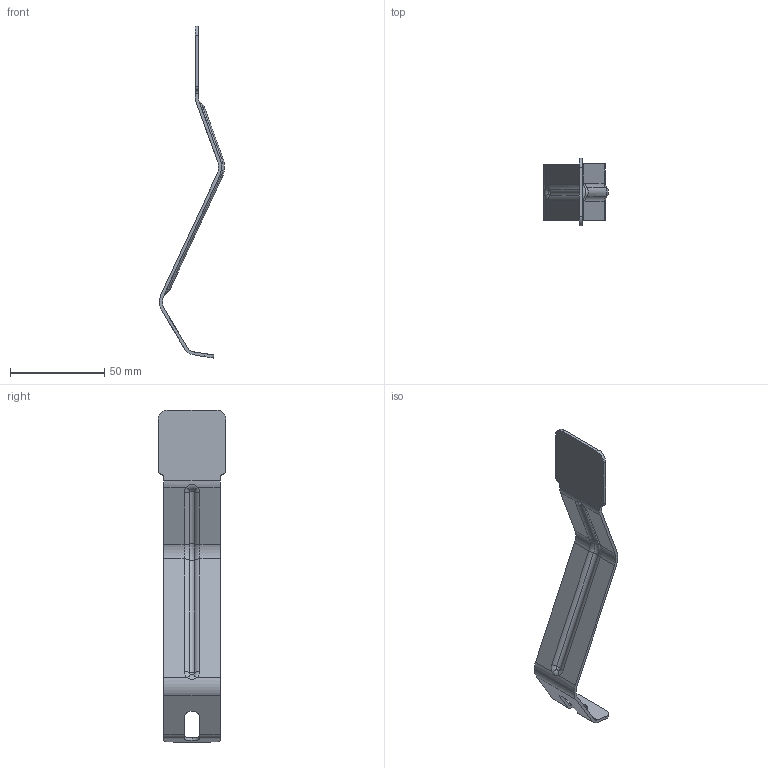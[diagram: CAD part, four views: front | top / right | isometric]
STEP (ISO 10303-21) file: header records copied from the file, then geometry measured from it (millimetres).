
FILE_DESCRIPTION (( 'STEP AP203' ), '1' );
FILE_NAME ('6672373.STEP', '2025-07-30T16:08:25', ( '' ), ( '' ), 'SwSTEP 2.0', 'SolidWorks 2024', '' );
FILE_SCHEMA (( 'CONFIG_CONTROL_DESIGN' ));
Length unit declared in the file: millimetre
Products named in the file (1): 6672373
Bounding box: 34.49 x 36 x 176.33 mm (x, y, z)
Volume: 9757.8 mm3; surface area: 12972.1 mm2
Topology: 1 solids, 1 shells, 79 faces, 205 edges, 126 vertices
Faces by surface type: cylinder 34, plane 22, torus 14, bspline 5, sphere 4
Entity records: 3103 total; most frequent: CARTESIAN_POINT 1103, ORIENTED_EDGE 410, DIRECTION 405, EDGE_CURVE 205, AXIS2_PLACEMENT_3D 153, VERTEX_POINT 126, LINE 99, VECTOR 99
